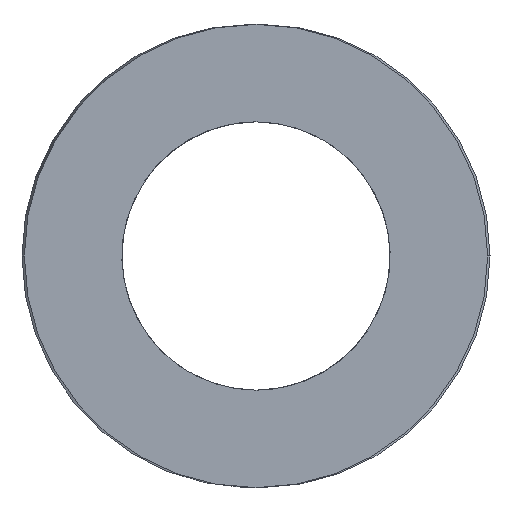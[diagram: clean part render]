
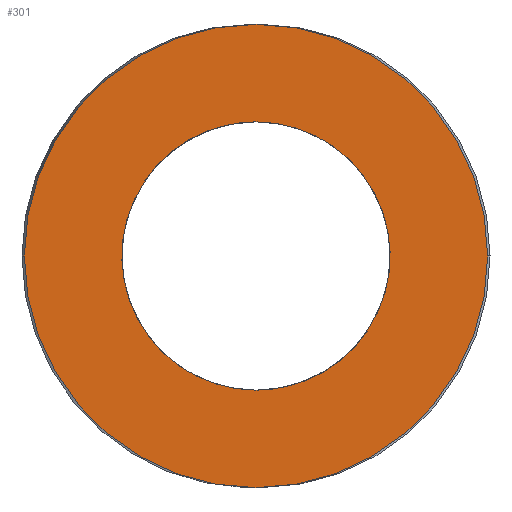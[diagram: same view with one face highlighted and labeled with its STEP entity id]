
A CAD part, left-side view. The second image highlights one B-rep face of the part: STEP entity #301.
In plain terms, the highlighted planar face has unit normal (-1, 0, 0).
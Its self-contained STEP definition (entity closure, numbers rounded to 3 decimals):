
#63=CARTESIAN_POINT('Vertex',(0.,7.6,0.)) ;
#77=CARTESIAN_POINT('Vertex',(0.,-7.6,0.)) ;
#80=CARTESIAN_POINT('Axis2P3D Location',(0.,0.,0.)) ;
#97=CARTESIAN_POINT('Axis2P3D Location',(0.,0.,0.)) ;
#232=CARTESIAN_POINT('Axis2P3D Location',(0.,3.8,0.)) ;
#242=CARTESIAN_POINT('Control Point',(0.,0.,-4.4)) ;
#243=CARTESIAN_POINT('Control Point',(0.,0.411,-4.4)) ;
#244=CARTESIAN_POINT('Control Point',(0.,0.822,-4.352)) ;
#245=CARTESIAN_POINT('Control Point',(0.,1.226,-4.256)) ;
#246=CARTESIAN_POINT('Control Point',(0.,2.003,-3.972)) ;
#247=CARTESIAN_POINT('Control Point',(0.,2.694,-3.516)) ;
#248=CARTESIAN_POINT('Control Point',(0.,3.011,-3.248)) ;
#249=CARTESIAN_POINT('Control Point',(0.,3.577,-2.644)) ;
#250=CARTESIAN_POINT('Control Point',(0.,3.988,-1.926)) ;
#251=CARTESIAN_POINT('Control Point',(0.,4.151,-1.544)) ;
#252=CARTESIAN_POINT('Control Point',(0.,4.384,-0.75)) ;
#253=CARTESIAN_POINT('Control Point',(0.,4.428,0.076)) ;
#254=CARTESIAN_POINT('Control Point',(0.,4.402,0.49)) ;
#255=CARTESIAN_POINT('Control Point',(0.,4.252,1.304)) ;
#256=CARTESIAN_POINT('Control Point',(0.,3.92,2.062)) ;
#257=CARTESIAN_POINT('Control Point',(0.,3.71,2.42)) ;
#258=CARTESIAN_POINT('Control Point',(0.,3.21,3.079)) ;
#259=CARTESIAN_POINT('Control Point',(0.,2.571,3.606)) ;
#260=CARTESIAN_POINT('Control Point',(0.,2.223,3.831)) ;
#261=CARTESIAN_POINT('Control Point',(0.,1.581,4.145)) ;
#262=CARTESIAN_POINT('Control Point',(0.,0.892,4.324)) ;
#263=CARTESIAN_POINT('Control Point',(0.,0.597,4.375)) ;
#264=CARTESIAN_POINT('Control Point',(0.,0.298,4.4)) ;
#265=CARTESIAN_POINT('Control Point',(0.,0.,4.4)) ;
#266=CARTESIAN_POINT('Vertex',(0.,0.,-4.4)) ;
#268=CARTESIAN_POINT('Vertex',(0.,0.,4.4)) ;
#272=CARTESIAN_POINT('Control Point',(0.,0.,4.4)) ;
#273=CARTESIAN_POINT('Control Point',(0.,-0.411,4.4)) ;
#274=CARTESIAN_POINT('Control Point',(0.,-0.822,4.352)) ;
#275=CARTESIAN_POINT('Control Point',(0.,-1.226,4.256)) ;
#276=CARTESIAN_POINT('Control Point',(0.,-2.003,3.972)) ;
#277=CARTESIAN_POINT('Control Point',(0.,-2.694,3.516)) ;
#278=CARTESIAN_POINT('Control Point',(0.,-3.011,3.248)) ;
#279=CARTESIAN_POINT('Control Point',(0.,-3.577,2.644)) ;
#280=CARTESIAN_POINT('Control Point',(0.,-3.988,1.926)) ;
#281=CARTESIAN_POINT('Control Point',(0.,-4.151,1.544)) ;
#282=CARTESIAN_POINT('Control Point',(0.,-4.384,0.75)) ;
#283=CARTESIAN_POINT('Control Point',(0.,-4.428,-0.076)) ;
#284=CARTESIAN_POINT('Control Point',(0.,-4.402,-0.49)) ;
#285=CARTESIAN_POINT('Control Point',(0.,-4.252,-1.304)) ;
#286=CARTESIAN_POINT('Control Point',(0.,-3.92,-2.062)) ;
#287=CARTESIAN_POINT('Control Point',(0.,-3.71,-2.42)) ;
#288=CARTESIAN_POINT('Control Point',(0.,-3.21,-3.079)) ;
#289=CARTESIAN_POINT('Control Point',(0.,-2.571,-3.606)) ;
#290=CARTESIAN_POINT('Control Point',(0.,-2.223,-3.831)) ;
#291=CARTESIAN_POINT('Control Point',(0.,-1.581,-4.145)) ;
#292=CARTESIAN_POINT('Control Point',(0.,-0.892,-4.324)) ;
#293=CARTESIAN_POINT('Control Point',(0.,-0.597,-4.375)) ;
#294=CARTESIAN_POINT('Control Point',(0.,-0.298,-4.4)) ;
#295=CARTESIAN_POINT('Control Point',(0.,0.,-4.4)) ;
#81=DIRECTION('Axis2P3D Direction',(1.,-0.,0.)) ;
#98=DIRECTION('Axis2P3D Direction',(1.,-0.,0.)) ;
#233=DIRECTION('Axis2P3D Direction',(-1.,0.,0.)) ;
#234=DIRECTION('Axis2P3D XDirection',(0.,1.,0.)) ;
#82=AXIS2_PLACEMENT_3D('Circle Axis2P3D',#80,#81,$) ;
#99=AXIS2_PLACEMENT_3D('Circle Axis2P3D',#97,#98,$) ;
#235=AXIS2_PLACEMENT_3D('Plane Axis2P3D',#232,#233,#234) ;
#238=ORIENTED_EDGE('',*,*,#84,.T.) ;
#239=ORIENTED_EDGE('',*,*,#101,.T.) ;
#298=ORIENTED_EDGE('',*,*,#270,.T.) ;
#299=ORIENTED_EDGE('',*,*,#296,.T.) ;
#300=FACE_BOUND('',#297,.T.) ;
#301=ADVANCED_FACE('392-B16-102',(#240,#300),#236,.T.) ;
#241=B_SPLINE_CURVE_WITH_KNOTS('',5,(#242,#243,#244,#245,#246,#247,#248,#249,#250,#251,#252,#253,#254,#255,#256,#257,#258,#259,#260,#261,#262,#263,#264,#265),.UNSPECIFIED.,.F.,.U.,(6,3,3,3,3,3,3,6),(0.,2.907,5.813,8.72,11.626,14.533,17.439,19.549),.UNSPECIFIED.) ;
#271=B_SPLINE_CURVE_WITH_KNOTS('',5,(#272,#273,#274,#275,#276,#277,#278,#279,#280,#281,#282,#283,#284,#285,#286,#287,#288,#289,#290,#291,#292,#293,#294,#295),.UNSPECIFIED.,.F.,.U.,(6,3,3,3,3,3,3,6),(0.,2.907,5.813,8.72,11.626,14.533,17.439,19.549),.UNSPECIFIED.) ;
#83=CIRCLE('generated circle',#82,7.6) ;
#100=CIRCLE('generated circle',#99,7.6) ;
#84=EDGE_CURVE('',#64,#78,#83,.F.) ;
#101=EDGE_CURVE('',#78,#64,#100,.F.) ;
#270=EDGE_CURVE('',#267,#269,#241,.T.) ;
#296=EDGE_CURVE('',#269,#267,#271,.T.) ;
#237=EDGE_LOOP('',(#238,#239)) ;
#297=EDGE_LOOP('',(#298,#299)) ;
#240=FACE_OUTER_BOUND('',#237,.T.) ;
#236=PLANE('Plane',#235) ;
#64=VERTEX_POINT('',#63) ;
#78=VERTEX_POINT('',#77) ;
#267=VERTEX_POINT('',#266) ;
#269=VERTEX_POINT('',#268) ;
